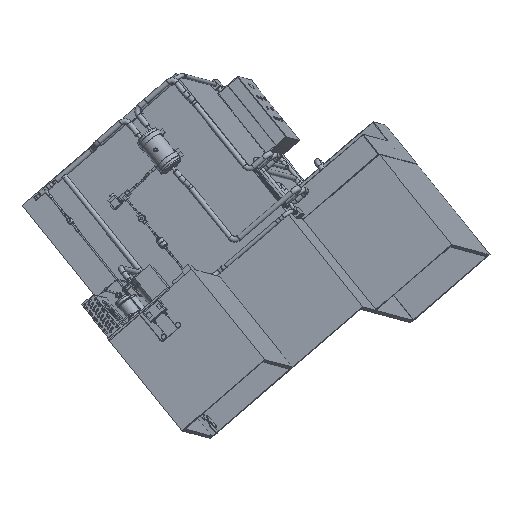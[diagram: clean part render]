
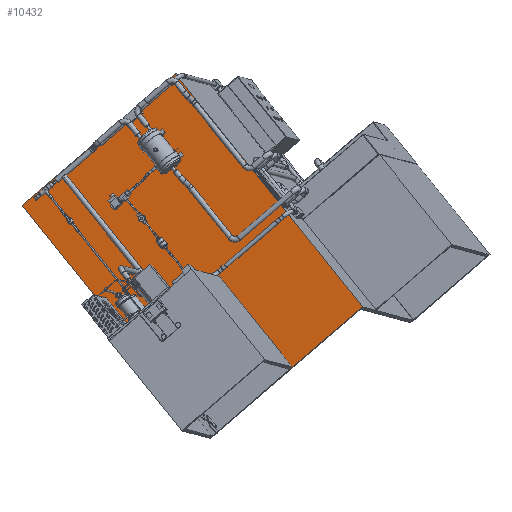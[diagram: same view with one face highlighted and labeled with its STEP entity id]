
A CAD part, isometric view. The second image highlights one B-rep face of the part: STEP entity #10432.
In plain terms, the highlighted planar face has unit normal (-0.707, -0.354, 0.612).
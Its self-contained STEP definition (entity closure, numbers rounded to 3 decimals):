
#10287=CARTESIAN_POINT('',(41028.697,-3272.216,16267.263));
#10288=VERTEX_POINT('',#10287);
#10295=CARTESIAN_POINT('',(40639.789,-3077.762,15930.459));
#10296=VERTEX_POINT('',#10295);
#10297=CARTESIAN_POINT('',(40639.789,-3077.762,15930.459));
#10298=DIRECTION('',(0.707,-0.354,0.612));
#10299=VECTOR('',#10298,550.);
#10300=LINE('',#10297,#10299);
#10301=EDGE_CURVE('',#10296,#10288,#10300,.T.);
#10386=CARTESIAN_POINT('',(41028.697,-2492.793,16717.263));
#10387=DIRECTION('',(-0.707,-0.354,0.612));
#10388=DIRECTION('',(0.655,0.,0.756));
#10389=AXIS2_PLACEMENT_3D('',#10386,#10387,#10388);
#10390=PLANE('',#10389);
#10391=CARTESIAN_POINT('',(41028.697,-1713.37,17167.263));
#10392=VERTEX_POINT('',#10391);
#10393=CARTESIAN_POINT('',(41028.697,-3272.216,16267.263));
#10394=DIRECTION('',(0.0,0.866,0.5));
#10395=VECTOR('',#10394,1800.);
#10396=LINE('',#10393,#10395);
#10397=EDGE_CURVE('',#10288,#10392,#10396,.T.);
#10398=ORIENTED_EDGE('',*,*,#10397,.T.);
#10399=CARTESIAN_POINT('',(40180.169,-1289.106,16432.416));
#10400=VERTEX_POINT('',#10399);
#10401=CARTESIAN_POINT('',(41028.697,-1713.37,17167.263));
#10402=DIRECTION('',(-0.707,0.354,-0.612));
#10403=VECTOR('',#10402,1200.);
#10404=LINE('',#10401,#10403);
#10405=EDGE_CURVE('',#10392,#10400,#10404,.T.);
#10406=ORIENTED_EDGE('',*,*,#10405,.T.);
#10407=CARTESIAN_POINT('',(40180.169,-2241.734,15882.416));
#10408=VERTEX_POINT('',#10407);
#10409=CARTESIAN_POINT('',(40180.169,-2241.734,15882.416));
#10410=DIRECTION('',(0.0,0.866,0.5));
#10411=VECTOR('',#10410,1100.);
#10412=LINE('',#10409,#10411);
#10413=EDGE_CURVE('',#10408,#10400,#10412,.T.);
#10414=ORIENTED_EDGE('',*,*,#10413,.F.);
#10415=CARTESIAN_POINT('',(40639.789,-2471.544,16280.459));
#10416=VERTEX_POINT('',#10415);
#10417=CARTESIAN_POINT('',(40180.169,-2241.734,15882.416));
#10418=DIRECTION('',(0.707,-0.354,0.612));
#10419=VECTOR('',#10418,650.);
#10420=LINE('',#10417,#10419);
#10421=EDGE_CURVE('',#10408,#10416,#10420,.T.);
#10422=ORIENTED_EDGE('',*,*,#10421,.T.);
#10423=CARTESIAN_POINT('',(40639.789,-2471.544,16280.459));
#10424=DIRECTION('',(0.0,-0.866,-0.5));
#10425=VECTOR('',#10424,700.);
#10426=LINE('',#10423,#10425);
#10427=EDGE_CURVE('',#10416,#10296,#10426,.T.);
#10428=ORIENTED_EDGE('',*,*,#10427,.T.);
#10429=ORIENTED_EDGE('',*,*,#10301,.T.);
#10430=EDGE_LOOP('',(#10398,#10406,#10414,#10422,#10428,#10429));
#10431=FACE_OUTER_BOUND('',#10430,.T.);
#10432=ADVANCED_FACE('',(#10431),#10390,.T.);
